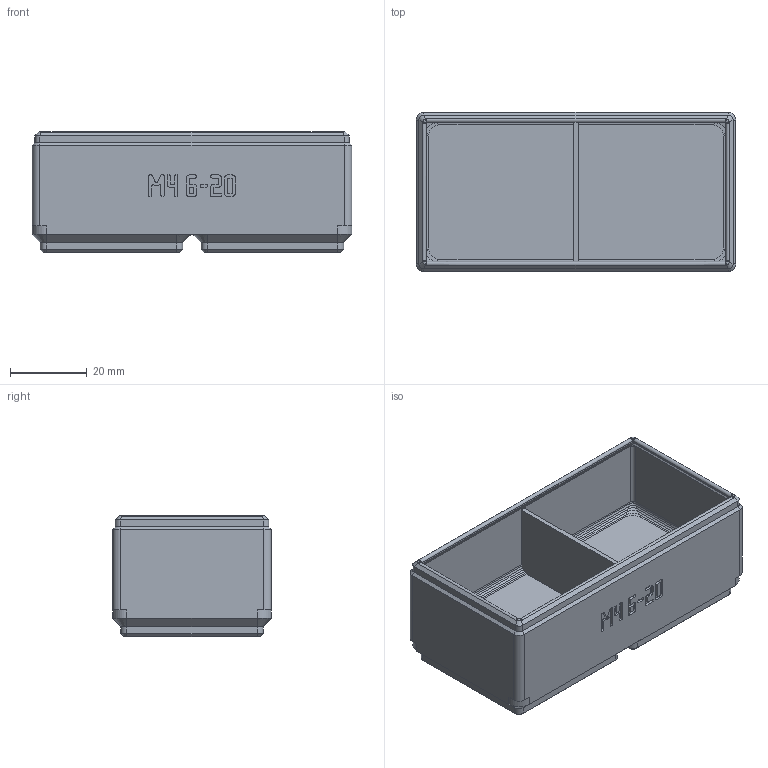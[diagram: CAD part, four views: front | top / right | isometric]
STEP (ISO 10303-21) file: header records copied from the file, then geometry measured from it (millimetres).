
FILE_DESCRIPTION(('Open CASCADE Model'),'2;1');
FILE_NAME('Open CASCADE Shape Model','2026-11-03T14:04:41',('Author'),( 'Open CASCADE'),'Open CASCADE STEP processor 8.0','build123d', 'Unknown');
FILE_SCHEMA(('AUTOMOTIVE_DESIGN { 1 0 10303 214 1 1 1 1 }'));
Products named in the file (1): SOLID
Bounding box: 83.5 x 41.5 x 31.7 mm (x, y, z)
Volume: 27692.7 mm3; surface area: 28208.2 mm2
Topology: 1 solids, 1 shells, 776 faces, 2130 edges, 1364 vertices
Faces by surface type: plane 616, bspline 104, cylinder 36, cone 20
Entity records: 55662 total; most frequent: CARTESIAN_POINT 14253, DIRECTION 7166, LINE 5564, VECTOR 5564, ORIENTED_EDGE 4260, PCURVE 4260, DEFINITIONAL_REPRESENTATION 4260, EDGE_CURVE 2130
